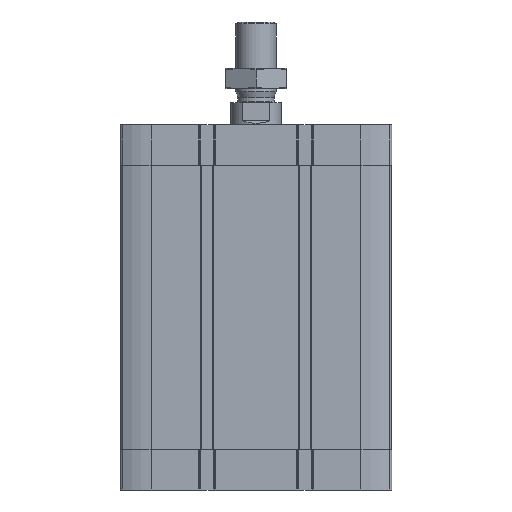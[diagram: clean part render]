
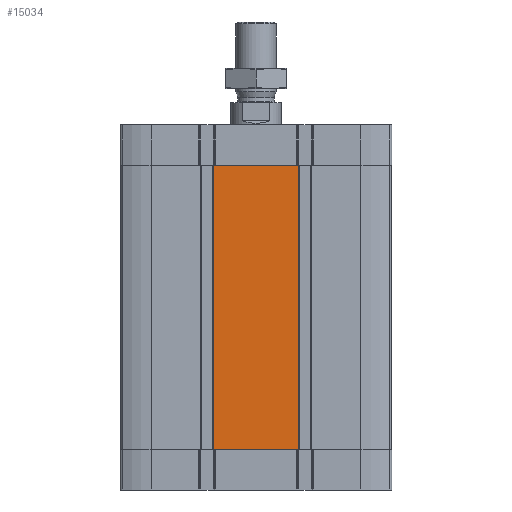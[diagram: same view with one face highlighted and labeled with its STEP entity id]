
A CAD part, front view. The second image highlights one B-rep face of the part: STEP entity #15034.
In plain terms, the highlighted planar face has unit normal (0, -1, 0).
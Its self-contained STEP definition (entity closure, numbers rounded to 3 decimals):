
#50 = VERTEX_POINT ( 'NONE', #11202 ) ;
#252 = ORIENTED_EDGE ( 'NONE', *, *, #7319, .F. ) ;
#461 = EDGE_CURVE ( 'NONE', #17575, #6705, #9084, .T. ) ;
#522 = LINE ( 'NONE', #4648, #10395 ) ;
#730 = DIRECTION ( 'NONE',  ( 1., 0., 0. ) ) ;
#760 = VERTEX_POINT ( 'NONE', #11159 ) ;
#841 = CARTESIAN_POINT ( 'NONE',  ( -67., -67., -20. ) ) ;
#1734 = CARTESIAN_POINT ( 'NONE',  ( -67., -67., -161. ) ) ;
#1791 = VECTOR ( 'NONE', #11510, 1000. ) ;
#1822 = LINE ( 'NONE', #11366, #15336 ) ;
#2404 = VERTEX_POINT ( 'NONE', #14397 ) ;
#2426 = CARTESIAN_POINT ( 'NONE',  ( -20.687, -67., -20. ) ) ;
#3364 = VECTOR ( 'NONE', #4045, 1000. ) ;
#4045 = DIRECTION ( 'NONE',  ( 1., 0., 0. ) ) ;
#4124 = DIRECTION ( 'NONE',  ( 1., 0., 0. ) ) ;
#4212 = EDGE_CURVE ( 'NONE', #50, #16926, #16028, .T. ) ;
#4542 = VECTOR ( 'NONE', #17889, 1000. ) ;
#4648 = CARTESIAN_POINT ( 'NONE',  ( -67., -67., -161. ) ) ;
#5114 = ORIENTED_EDGE ( 'NONE', *, *, #13964, .F. ) ;
#5131 = VECTOR ( 'NONE', #7411, 1000. ) ;
#5412 = CARTESIAN_POINT ( 'NONE',  ( -21.3, -67., -161. ) ) ;
#5414 = AXIS2_PLACEMENT_3D ( 'NONE', #16371, #12045, #17561 ) ;
#6705 = VERTEX_POINT ( 'NONE', #2426 ) ;
#7237 = LINE ( 'NONE', #1734, #5131 ) ;
#7319 = EDGE_CURVE ( 'NONE', #17870, #16926, #14960, .T. ) ;
#7411 = DIRECTION ( 'NONE',  ( 1., 0., 0. ) ) ;
#7564 = EDGE_CURVE ( 'NONE', #760, #50, #522, .T. ) ;
#7643 = PLANE ( 'NONE',  #5414 ) ;
#7976 = LINE ( 'NONE', #8164, #3364 ) ;
#8164 = CARTESIAN_POINT ( 'NONE',  ( -21.3, -67., -20. ) ) ;
#8631 = ORIENTED_EDGE ( 'NONE', *, *, #16664, .T. ) ;
#9084 = LINE ( 'NONE', #13289, #12116 ) ;
#9515 = VECTOR ( 'NONE', #15232, 1000. ) ;
#9750 = CARTESIAN_POINT ( 'NONE',  ( 20.687, -67., -20. ) ) ;
#9782 = EDGE_LOOP ( 'NONE', ( #12601, #8631, #15094, #13711, #16695, #252, #5114, #17412 ) ) ;
#10395 = VECTOR ( 'NONE', #4124, 1000. ) ;
#11159 = CARTESIAN_POINT ( 'NONE',  ( 20.687, -67., -161. ) ) ;
#11202 = CARTESIAN_POINT ( 'NONE',  ( 21.3, -67., -161. ) ) ;
#11331 = CARTESIAN_POINT ( 'NONE',  ( -21.3, -67., -20. ) ) ;
#11366 = CARTESIAN_POINT ( 'NONE',  ( -21.3, -67., -161. ) ) ;
#11510 = DIRECTION ( 'NONE',  ( 0., 0., 1. ) ) ;
#11700 = CARTESIAN_POINT ( 'NONE',  ( 21.3, -67., -161. ) ) ;
#12045 = DIRECTION ( 'NONE',  ( 0., -1., 0. ) ) ;
#12116 = VECTOR ( 'NONE', #730, 1000. ) ;
#12601 = ORIENTED_EDGE ( 'NONE', *, *, #16662, .F. ) ;
#12832 = DIRECTION ( 'NONE',  ( 0., 0., 1. ) ) ;
#13289 = CARTESIAN_POINT ( 'NONE',  ( -67., -67., -20. ) ) ;
#13711 = ORIENTED_EDGE ( 'NONE', *, *, #7564, .T. ) ;
#13738 = CARTESIAN_POINT ( 'NONE',  ( 21.3, -67., -20. ) ) ;
#13964 = EDGE_CURVE ( 'NONE', #6705, #17870, #7976, .T. ) ;
#13985 = EDGE_CURVE ( 'NONE', #2404, #760, #17979, .T. ) ;
#14174 = VERTEX_POINT ( 'NONE', #17239 ) ;
#14397 = CARTESIAN_POINT ( 'NONE',  ( -20.687, -67., -161. ) ) ;
#14960 = LINE ( 'NONE', #841, #4542 ) ;
#15034 = ADVANCED_FACE ( 'NONE', ( #16096 ), #7643, .T. ) ;
#15094 = ORIENTED_EDGE ( 'NONE', *, *, #13985, .T. ) ;
#15232 = DIRECTION ( 'NONE',  ( 1., 0., 0. ) ) ;
#15336 = VECTOR ( 'NONE', #12832, 1000. ) ;
#16028 = LINE ( 'NONE', #11700, #1791 ) ;
#16096 = FACE_OUTER_BOUND ( 'NONE', #9782, .T. ) ;
#16371 = CARTESIAN_POINT ( 'NONE',  ( -67., -67., -161. ) ) ;
#16662 = EDGE_CURVE ( 'NONE', #14174, #17575, #1822, .T. ) ;
#16664 = EDGE_CURVE ( 'NONE', #14174, #2404, #7237, .T. ) ;
#16695 = ORIENTED_EDGE ( 'NONE', *, *, #4212, .T. ) ;
#16926 = VERTEX_POINT ( 'NONE', #13738 ) ;
#17239 = CARTESIAN_POINT ( 'NONE',  ( -21.3, -67., -161. ) ) ;
#17412 = ORIENTED_EDGE ( 'NONE', *, *, #461, .F. ) ;
#17561 = DIRECTION ( 'NONE',  ( 0., 0., -1. ) ) ;
#17575 = VERTEX_POINT ( 'NONE', #11331 ) ;
#17870 = VERTEX_POINT ( 'NONE', #9750 ) ;
#17889 = DIRECTION ( 'NONE',  ( 1., 0., 0. ) ) ;
#17979 = LINE ( 'NONE', #5412, #9515 ) ;
